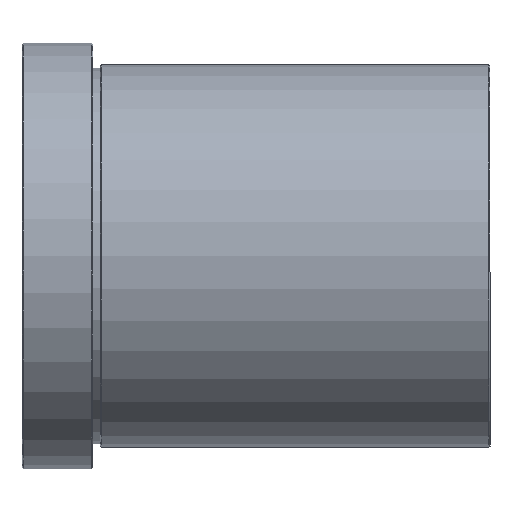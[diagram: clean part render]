
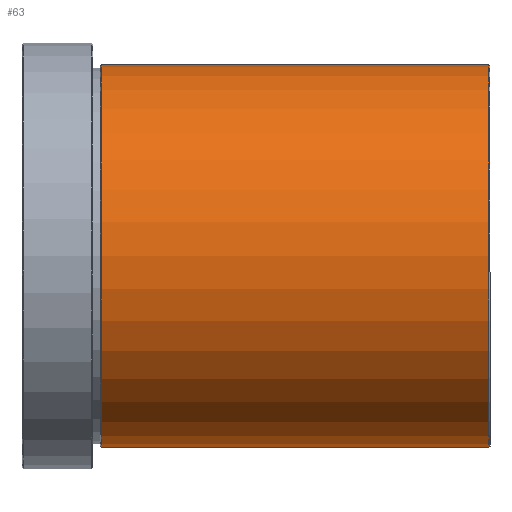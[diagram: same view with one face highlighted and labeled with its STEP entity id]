
A CAD part, top view. The second image highlights one B-rep face of the part: STEP entity #63.
In plain terms, the highlighted cylindrical face has radius 27 mm (diameter 54 mm), a partial arc.
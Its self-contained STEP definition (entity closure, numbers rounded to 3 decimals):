
#33 = EDGE_CURVE ( 'NONE', #162, #326, #615, .T. ) ;
#37 = EDGE_CURVE ( 'NONE', #241, #528, #608, .T. ) ;
#63 = ADVANCED_FACE ( 'NONE', ( #210 ), #211, .T. ) ;
#82 = EDGE_CURVE ( 'NONE', #162, #528, #113, .T. ) ;
#84 = EDGE_CURVE ( 'NONE', #326, #241, #107, .T. ) ;
#95 = DIRECTION ( 'NONE',  ( 1., 0., 0. ) ) ;
#102 = DIRECTION ( 'NONE',  ( 1., 0., 0. ) ) ;
#106 = CARTESIAN_POINT ( 'NONE',  ( 0., -27., 0. ) ) ;
#107 = LINE ( 'NONE', #106, #755 ) ;
#112 = CARTESIAN_POINT ( 'NONE',  ( 0., 27., 0. ) ) ;
#113 = LINE ( 'NONE', #112, #752 ) ;
#162 = VERTEX_POINT ( 'NONE', #564 ) ;
#206 = DIRECTION ( 'NONE',  ( 0., 1., 0. ) ) ;
#209 = CARTESIAN_POINT ( 'NONE',  ( 0., 0., 0. ) ) ;
#210 = FACE_OUTER_BOUND ( 'NONE', #453, .T. ) ;
#211 = CYLINDRICAL_SURFACE ( 'NONE', #700, 27. ) ;
#212 = DIRECTION ( 'NONE',  ( 1., 0., 0. ) ) ;
#241 = VERTEX_POINT ( 'NONE', #575 ) ;
#326 = VERTEX_POINT ( 'NONE', #581 ) ;
#366 = DIRECTION ( 'NONE',  ( 0., 1., 0. ) ) ;
#367 = DIRECTION ( 'NONE',  ( -1., 0., 0. ) ) ;
#368 = CARTESIAN_POINT ( 'NONE',  ( -0.2, 0., 0. ) ) ;
#378 = DIRECTION ( 'NONE',  ( 0., -1., 0. ) ) ;
#381 = DIRECTION ( 'NONE',  ( 1., 0., 0. ) ) ;
#382 = CARTESIAN_POINT ( 'NONE',  ( -54.8, 0., 0. ) ) ;
#453 = EDGE_LOOP ( 'NONE', ( #534, #533, #532, #480 ) ) ;
#480 = ORIENTED_EDGE ( 'NONE', *, *, #82, .F. ) ;
#528 = VERTEX_POINT ( 'NONE', #587 ) ;
#532 = ORIENTED_EDGE ( 'NONE', *, *, #37, .T. ) ;
#533 = ORIENTED_EDGE ( 'NONE', *, *, #84, .T. ) ;
#534 = ORIENTED_EDGE ( 'NONE', *, *, #33, .T. ) ;
#564 = CARTESIAN_POINT ( 'NONE',  ( -54.8, 27., 0. ) ) ;
#575 = CARTESIAN_POINT ( 'NONE',  ( -0.2, -27., 0. ) ) ;
#581 = CARTESIAN_POINT ( 'NONE',  ( -54.8, -27., 0. ) ) ;
#587 = CARTESIAN_POINT ( 'NONE',  ( -0.2, 27., 0. ) ) ;
#608 = CIRCLE ( 'NONE', #610, 27. ) ;
#610 = AXIS2_PLACEMENT_3D ( 'NONE', #368, #367, #366 ) ;
#615 = CIRCLE ( 'NONE', #616, 27. ) ;
#616 = AXIS2_PLACEMENT_3D ( 'NONE', #382, #381, #378 ) ;
#700 = AXIS2_PLACEMENT_3D ( 'NONE', #209, #212, #206 ) ;
#752 = VECTOR ( 'NONE', #102, 1000. ) ;
#755 = VECTOR ( 'NONE', #95, 1000. ) ;
